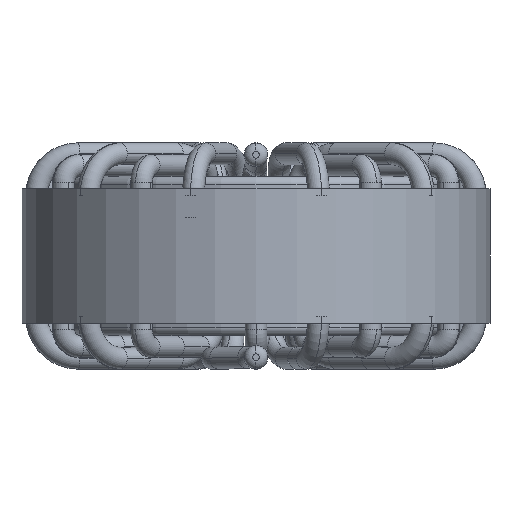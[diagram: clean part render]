
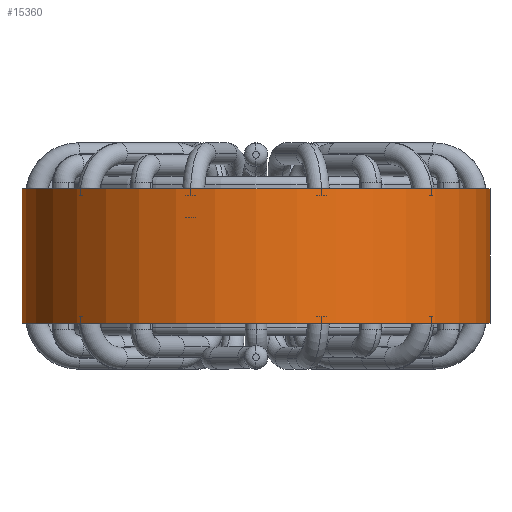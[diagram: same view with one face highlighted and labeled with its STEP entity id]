
A CAD part, front view. The second image highlights one B-rep face of the part: STEP entity #15360.
In plain terms, the highlighted cylindrical face has radius 27.745 mm (diameter 55.49 mm), a partial arc.
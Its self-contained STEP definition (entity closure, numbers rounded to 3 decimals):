
#215 = AXIS2_PLACEMENT_3D ( 'NONE', #15188, #31899, #4505 ) ;
#271 = VECTOR ( 'NONE', #20603, 1000. ) ;
#930 = VERTEX_POINT ( 'NONE', #9282 ) ;
#1394 = VERTEX_POINT ( 'NONE', #24394 ) ;
#1526 = CARTESIAN_POINT ( 'NONE',  ( 27.745, 0., 8. ) ) ;
#1653 = FACE_OUTER_BOUND ( 'NONE', #9875, .T. ) ;
#2964 = CARTESIAN_POINT ( 'NONE',  ( 0., 0., 8. ) ) ;
#3459 = VERTEX_POINT ( 'NONE', #22259 ) ;
#4505 = DIRECTION ( 'NONE',  ( 1., 0., 0. ) ) ;
#4883 = LINE ( 'NONE', #26199, #12199 ) ;
#5480 = ORIENTED_EDGE ( 'NONE', *, *, #27050, .F. ) ;
#6473 = DIRECTION ( 'NONE',  ( 0., 0., -1. ) ) ;
#6764 = CIRCLE ( 'NONE', #11276, 27.745 ) ;
#8494 = ORIENTED_EDGE ( 'NONE', *, *, #25619, .F. ) ;
#8833 = DIRECTION ( 'NONE',  ( 1., 0., 0. ) ) ;
#9282 = CARTESIAN_POINT ( 'NONE',  ( 27.745, 0., -8. ) ) ;
#9298 = VERTEX_POINT ( 'NONE', #9961 ) ;
#9875 = EDGE_LOOP ( 'NONE', ( #5480, #8494, #13841, #30624 ) ) ;
#9961 = CARTESIAN_POINT ( 'NONE',  ( -27.745, 0., -8. ) ) ;
#11276 = AXIS2_PLACEMENT_3D ( 'NONE', #2964, #13856, #8833 ) ;
#11303 = EDGE_CURVE ( 'NONE', #3459, #9298, #4883, .T. ) ;
#12199 = VECTOR ( 'NONE', #21115, 1000. ) ;
#13841 = ORIENTED_EDGE ( 'NONE', *, *, #11303, .T. ) ;
#13856 = DIRECTION ( 'NONE',  ( 0., 0., 1. ) ) ;
#15188 = CARTESIAN_POINT ( 'NONE',  ( 0., 0., -8. ) ) ;
#15360 = ADVANCED_FACE ( 'NONE', ( #1653 ), #33469, .T. ) ;
#17807 = DIRECTION ( 'NONE',  ( -1., 0., 0. ) ) ;
#20603 = DIRECTION ( 'NONE',  ( 0., 0., -1. ) ) ;
#21115 = DIRECTION ( 'NONE',  ( 0., 0., -1. ) ) ;
#21364 = CIRCLE ( 'NONE', #215, 27.745 ) ;
#22151 = LINE ( 'NONE', #1526, #271 ) ;
#22259 = CARTESIAN_POINT ( 'NONE',  ( -27.745, 0., 8. ) ) ;
#23213 = CARTESIAN_POINT ( 'NONE',  ( 0., 0., 8. ) ) ;
#24394 = CARTESIAN_POINT ( 'NONE',  ( 27.745, 0., 8. ) ) ;
#24456 = EDGE_CURVE ( 'NONE', #9298, #930, #21364, .T. ) ;
#25619 = EDGE_CURVE ( 'NONE', #3459, #1394, #6764, .T. ) ;
#26199 = CARTESIAN_POINT ( 'NONE',  ( -27.745, 0., 8. ) ) ;
#27050 = EDGE_CURVE ( 'NONE', #1394, #930, #22151, .T. ) ;
#30624 = ORIENTED_EDGE ( 'NONE', *, *, #24456, .T. ) ;
#31899 = DIRECTION ( 'NONE',  ( 0., 0., 1. ) ) ;
#31969 = AXIS2_PLACEMENT_3D ( 'NONE', #23213, #6473, #17807 ) ;
#33469 = CYLINDRICAL_SURFACE ( 'NONE', #31969, 27.745 ) ;
